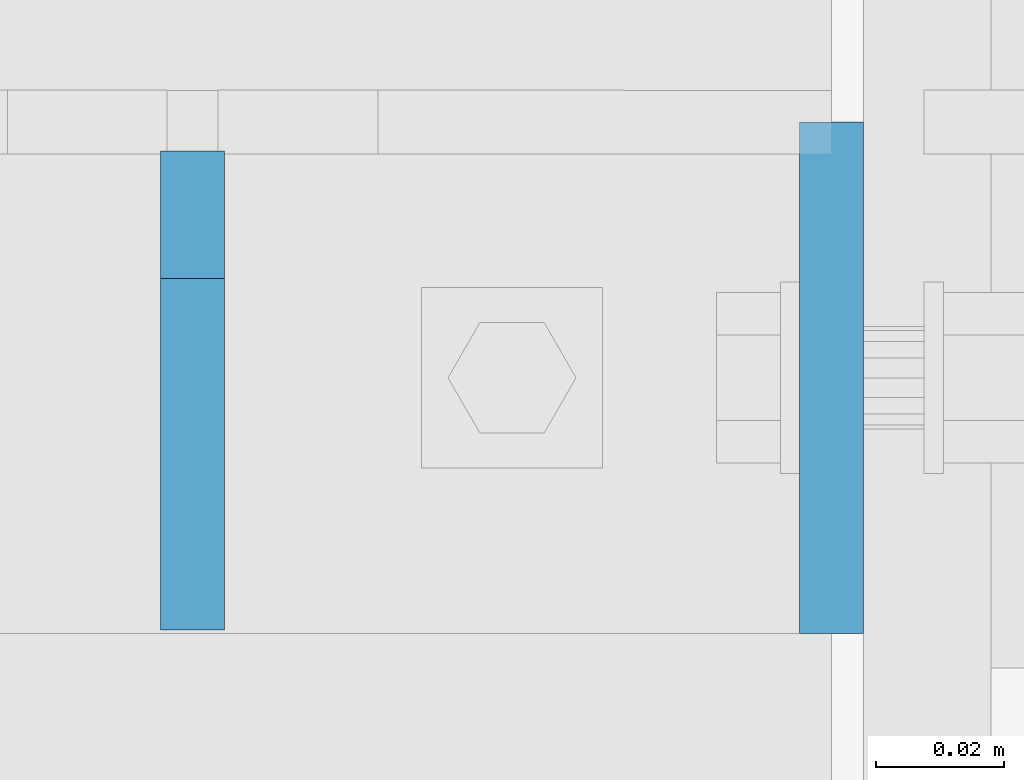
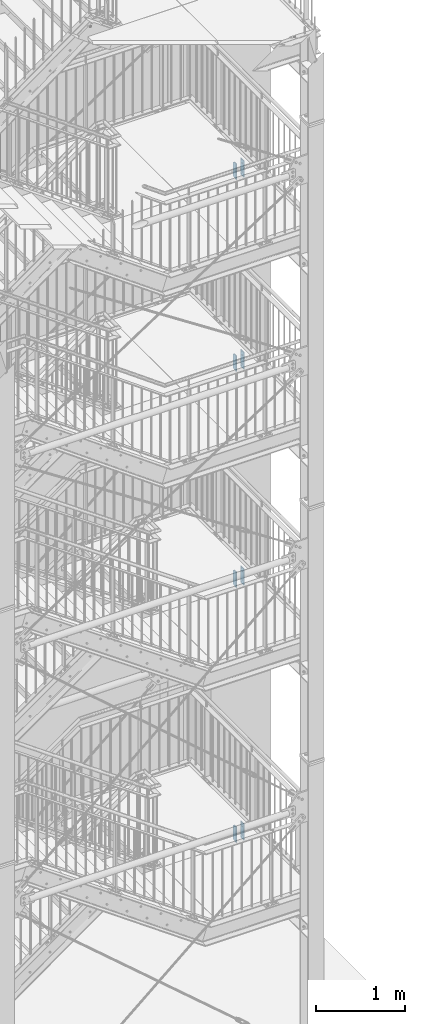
# One storey, part 204 of 825: 8 plates, 24 openings.
"""IFC2X3 building model written with IfcOpenShell, lengths in millimetres."""

from ifc_helpers import new_model, entity, si_unit, converted_unit, frame, frame_2d, origin, origin_with_axes, origin_2d_with_axis, place, context, project, spatial, polyline, circle, outline, extrude, material, layer, layer_set, element, save


model = new_model("IFC2X3")

# Units and contexts
model_context = context("Model", 3, precision=1e-09, world=origin_with_axes())
ifc_project = project(units=[si_unit("LENGTHUNIT", "METRE", prefix="MILLI"), si_unit("AREAUNIT", "SQUARE_METRE"), si_unit("VOLUMEUNIT", "CUBIC_METRE"), converted_unit("PLANEANGLEUNIT", "DEGREE", entity("IfcPlaneAngleMeasure", 0.01745329), si_unit("PLANEANGLEUNIT", "RADIAN"), dimensions=[0, 0, 0, 0, 0, 0, 0])], contexts=[model_context])

# Site, building, storey
site_placement = place(None, origin_with_axes())
site = spatial("IfcSite", under=ifc_project, at=site_placement, Name="Cnopf'sche Kinderklinik", CompositionType="ELEMENT")
building_placement = place(site_placement, origin_with_axes())
building = spatial("IfcBuilding", under=site, at=building_placement, Name="Struktur 1", CompositionType="ELEMENT")
storey_placement = place(building_placement, origin_with_axes())
storey = spatial("IfcBuildingStorey", under=building, at=storey_placement, Name="Default Storey", CompositionType="ELEMENT", Elevation=0.0)

# Plate, openings
ifc_material = material(Name="S235JR")
ifc_layer = layer(ifc_material, 10.0)
ifc_layer_set = layer_set([ifc_layer], Name="S235JR")
plate_1_placement = place(None, frame((8871.713402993, 6062.236971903, 2169.907896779), z_axis=(-1.0, 0.0, 0.0), x_axis=(0.0, 0.996815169, -0.079746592)))
plate_1 = element("IfcPlate", 1, at=plate_1_placement, inside=storey, material=ifc_layer_set, Name="Stiffener#1", ObjectType="Stiffener#1", context=model_context, shape_type="SweptSolid", body=[
    extrude(outline(polyline([(0.0, 0.0), (75.239625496, 0.0), (91.644322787, 205.05517107), (17.361672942, 217.017159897), (0.0, 0.0)])), origin_with_axes(), (0.0, 0.0, 1.0), 10.0),
])
opening_1_placement = place(plate_1_placement, frame((0.0, 0.0, -0.01), z_axis=(0.0, 0.0, 1.0), x_axis=(1.0, 0.0, 0.0)))
element("IfcOpeningElement", 2, at=opening_1_placement, cuts=plate_1, ObjectType="Opening", context=model_context, shape_type="SweptSolid", body=[
    extrude(outline(polyline([(91.644322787, 205.05517107), (71.898703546, 208.23487558), (90.049390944, 185.118867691), (91.644322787, 205.05517107)])), origin(), (0.0, 0.0, 1.0), 10.02),
])
opening_2_placement = place(plate_1_placement, frame((0.0, 0.0, -0.01), z_axis=(0.0, 0.0, 1.0), x_axis=(1.0, 0.0, 0.0)))
element("IfcOpeningElement", 3, at=opening_2_placement, cuts=plate_1, ObjectType="Opening", context=model_context, shape_type="SweptSolid", body=[
    extrude(outline(polyline([(75.239625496, 0.0), (76.83455734, 19.936303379), (55.239625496, 0.0), (75.239625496, 0.0)])), origin(), (0.0, 0.0, 1.0), 10.02),
])

plate_2_placement = place(None, frame((8971.713402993, 6141.736971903, 2176.0526312), z_axis=(-1.0, 0.0, 0.0), x_axis=(0.0, 0.0, -1.0)))
plate_2 = element("IfcPlate", 4, at=plate_2_placement, inside=storey, material=ifc_layer_set, Name="Endplate", ObjectType="Endplate", context=model_context, shape_type="SweptSolid", body=[
    extrude(outline(polyline([(0.0, 0.0), (230.0, 0.0), (230.0, 80.0), (0.0, 80.0), (0.0, 0.0)])), origin_with_axes(), (0.0, 0.0, 1.0), 10.0),
])
opening_3_placement = place(plate_2_placement, frame((209.0, 17.5, -0.5), z_axis=(0.0, 0.0, 1.0), x_axis=(1.0, 0.0, 0.0)))
element("IfcOpeningElement", 5, at=opening_3_placement, cuts=plate_2, ObjectType="Opening", context=model_context, shape_type="SweptSolid", body=[
    extrude(circle(Radius=6.001, at=origin_2d_with_axis()), origin(), (0.0, 0.0, 1.0), 11.0),
])
opening_4_placement = place(plate_2_placement, frame((21.0, 17.5, -0.5), z_axis=(0.0, 0.0, 1.0), x_axis=(1.0, 0.0, 0.0)))
element("IfcOpeningElement", 6, at=opening_4_placement, cuts=plate_2, ObjectType="Opening", context=model_context, shape_type="SweptSolid", body=[
    extrude(circle(Radius=6.001, at=origin_2d_with_axis()), origin(), (0.0, 0.0, 1.0), 11.0),
])
opening_5_placement = place(plate_2_placement, frame((64.001, 40.0, -0.5), z_axis=(0.0, 0.0, -1.0), x_axis=(-1.0, 0.0, 0.0)))
element("IfcOpeningElement", 7, at=opening_5_placement, cuts=plate_2, ObjectType="Opening", context=model_context, shape_type="SweptSolid", body=[
    extrude(circle(Radius=9.001, at=frame_2d((9.001, 0.0), x_axis=(1.0, 0.0))), origin(), (0.0, 0.0, -1.0), 11.0),
])
opening_6_placement = place(plate_2_placement, frame((184.001, 40.0, -0.5), z_axis=(0.0, 0.0, -1.0), x_axis=(-1.0, 0.0, 0.0)))
element("IfcOpeningElement", 8, at=opening_6_placement, cuts=plate_2, ObjectType="Opening", context=model_context, shape_type="SweptSolid", body=[
    extrude(circle(Radius=9.001, at=frame_2d((9.001, 0.0), x_axis=(1.0, 0.0))), origin(), (0.0, 0.0, -1.0), 11.0),
])

plate_3_placement = place(None, frame((8971.713402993, 6141.736971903, 5669.8947367), z_axis=(-1.0, 0.0, 0.0), x_axis=(0.0, 0.0, -1.0)))
plate_3 = element("IfcPlate", 9, at=plate_3_placement, inside=storey, material=ifc_layer_set, Name="Endplate", ObjectType="Endplate", context=model_context, shape_type="SweptSolid", body=[
    extrude(outline(polyline([(0.0, 0.0), (230.0, 0.0), (230.0, 80.0), (0.0, 80.0), (0.0, 0.0)])), origin_with_axes(), (0.0, 0.0, 1.0), 10.0),
])
opening_7_placement = place(plate_3_placement, frame((209.0, 17.5, -0.5), z_axis=(0.0, 0.0, 1.0), x_axis=(1.0, 0.0, 0.0)))
element("IfcOpeningElement", 10, at=opening_7_placement, cuts=plate_3, ObjectType="Opening", context=model_context, shape_type="SweptSolid", body=[
    extrude(circle(Radius=6.001, at=origin_2d_with_axis()), origin(), (0.0, 0.0, 1.0), 11.0),
])
opening_8_placement = place(plate_3_placement, frame((21.0, 17.5, -0.5), z_axis=(0.0, 0.0, 1.0), x_axis=(1.0, 0.0, 0.0)))
element("IfcOpeningElement", 11, at=opening_8_placement, cuts=plate_3, ObjectType="Opening", context=model_context, shape_type="SweptSolid", body=[
    extrude(circle(Radius=6.001, at=origin_2d_with_axis()), origin(), (0.0, 0.0, 1.0), 11.0),
])
opening_9_placement = place(plate_3_placement, frame((64.001, 40.0, -0.5), z_axis=(0.0, 0.0, -1.0), x_axis=(-1.0, 0.0, 0.0)))
element("IfcOpeningElement", 12, at=opening_9_placement, cuts=plate_3, ObjectType="Opening", context=model_context, shape_type="SweptSolid", body=[
    extrude(circle(Radius=9.001, at=frame_2d((9.001, 0.0), x_axis=(1.0, 0.0))), origin(), (0.0, 0.0, -1.0), 11.0),
])
opening_10_placement = place(plate_3_placement, frame((184.001, 40.0, -0.5), z_axis=(0.0, 0.0, -1.0), x_axis=(-1.0, 0.0, 0.0)))
element("IfcOpeningElement", 13, at=opening_10_placement, cuts=plate_3, ObjectType="Opening", context=model_context, shape_type="SweptSolid", body=[
    extrude(circle(Radius=9.001, at=frame_2d((9.001, 0.0), x_axis=(1.0, 0.0))), origin(), (0.0, 0.0, -1.0), 11.0),
])

plate_4_placement = place(None, frame((8871.713402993, 6062.236971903, 5663.750002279), z_axis=(-1.0, 0.0, 0.0), x_axis=(0.0, 0.996815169, -0.079746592)))
plate_4 = element("IfcPlate", 14, at=plate_4_placement, inside=storey, material=ifc_layer_set, Name="Stiffener#1", ObjectType="Stiffener#1", context=model_context, shape_type="SweptSolid", body=[
    extrude(outline(polyline([(0.0, 0.0), (75.239625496, 0.0), (91.644322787, 205.05517107), (17.361672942, 217.017159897), (0.0, 0.0)])), origin_with_axes(), (0.0, 0.0, 1.0), 10.0),
])
opening_11_placement = place(plate_4_placement, frame((0.0, 0.0, -0.01), z_axis=(0.0, 0.0, 1.0), x_axis=(1.0, 0.0, 0.0)))
element("IfcOpeningElement", 15, at=opening_11_placement, cuts=plate_4, ObjectType="Opening", context=model_context, shape_type="SweptSolid", body=[
    extrude(outline(polyline([(91.644322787, 205.05517107), (71.898703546, 208.23487558), (90.049390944, 185.118867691), (91.644322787, 205.05517107)])), origin(), (0.0, 0.0, 1.0), 10.02),
])
opening_12_placement = place(plate_4_placement, frame((0.0, 0.0, -0.01), z_axis=(0.0, 0.0, 1.0), x_axis=(1.0, 0.0, 0.0)))
element("IfcOpeningElement", 16, at=opening_12_placement, cuts=plate_4, ObjectType="Opening", context=model_context, shape_type="SweptSolid", body=[
    extrude(outline(polyline([(75.239625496, 0.0), (76.83455734, 19.936303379), (55.239625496, 0.0), (75.239625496, 0.0)])), origin(), (0.0, 0.0, 1.0), 10.02),
])

plate_5_placement = place(None, frame((8971.713402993, 6141.736971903, 8631.0), z_axis=(-1.0, 0.0, 0.0), x_axis=(0.0, 0.0, -1.0)))
plate_5 = element("IfcPlate", 17, at=plate_5_placement, inside=storey, material=ifc_layer_set, Name="Endplate", ObjectType="Endplate", context=model_context, shape_type="SweptSolid", body=[
    extrude(outline(polyline([(0.0, 0.0), (230.0, 0.0), (230.0, 80.0), (0.0, 80.0), (0.0, 0.0)])), origin_with_axes(), (0.0, 0.0, 1.0), 10.0),
])
opening_13_placement = place(plate_5_placement, frame((209.0, 17.5, -0.5), z_axis=(0.0, 0.0, 1.0), x_axis=(1.0, 0.0, 0.0)))
element("IfcOpeningElement", 18, at=opening_13_placement, cuts=plate_5, ObjectType="Opening", context=model_context, shape_type="SweptSolid", body=[
    extrude(circle(Radius=6.001, at=origin_2d_with_axis()), origin(), (0.0, 0.0, 1.0), 11.0),
])
opening_14_placement = place(plate_5_placement, frame((21.0, 17.5, -0.5), z_axis=(0.0, 0.0, 1.0), x_axis=(1.0, 0.0, 0.0)))
element("IfcOpeningElement", 19, at=opening_14_placement, cuts=plate_5, ObjectType="Opening", context=model_context, shape_type="SweptSolid", body=[
    extrude(circle(Radius=6.001, at=origin_2d_with_axis()), origin(), (0.0, 0.0, 1.0), 11.0),
])
opening_15_placement = place(plate_5_placement, frame((64.001, 40.0, -0.5), z_axis=(0.0, 0.0, -1.0), x_axis=(-1.0, 0.0, 0.0)))
element("IfcOpeningElement", 20, at=opening_15_placement, cuts=plate_5, ObjectType="Opening", context=model_context, shape_type="SweptSolid", body=[
    extrude(circle(Radius=9.001, at=frame_2d((9.001, 0.0), x_axis=(1.0, 0.0))), origin(), (0.0, 0.0, -1.0), 11.0),
])
opening_16_placement = place(plate_5_placement, frame((184.001, 40.0, -0.5), z_axis=(0.0, 0.0, -1.0), x_axis=(-1.0, 0.0, 0.0)))
element("IfcOpeningElement", 21, at=opening_16_placement, cuts=plate_5, ObjectType="Opening", context=model_context, shape_type="SweptSolid", body=[
    extrude(circle(Radius=9.001, at=frame_2d((9.001, 0.0), x_axis=(1.0, 0.0))), origin(), (0.0, 0.0, -1.0), 11.0),
])

plate_6_placement = place(None, frame((8871.713402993, 6062.236971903, 8624.855265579), z_axis=(-1.0, 0.0, 0.0), x_axis=(0.0, 0.996815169, -0.079746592)))
plate_6 = element("IfcPlate", 22, at=plate_6_placement, inside=storey, material=ifc_layer_set, Name="Stiffener#1", ObjectType="Stiffener#1", context=model_context, shape_type="SweptSolid", body=[
    extrude(outline(polyline([(0.0, 0.0), (75.239625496, 0.0), (91.644322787, 205.05517107), (17.361672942, 217.017159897), (0.0, 0.0)])), origin_with_axes(), (0.0, 0.0, 1.0), 10.0),
])
opening_17_placement = place(plate_6_placement, frame((0.0, 0.0, -0.01), z_axis=(0.0, 0.0, 1.0), x_axis=(1.0, 0.0, 0.0)))
element("IfcOpeningElement", 23, at=opening_17_placement, cuts=plate_6, ObjectType="Opening", context=model_context, shape_type="SweptSolid", body=[
    extrude(outline(polyline([(91.644322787, 205.05517107), (71.898703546, 208.23487558), (90.049390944, 185.118867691), (91.644322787, 205.05517107)])), origin(), (0.0, 0.0, 1.0), 10.02),
])
opening_18_placement = place(plate_6_placement, frame((0.0, 0.0, -0.01), z_axis=(0.0, 0.0, 1.0), x_axis=(1.0, 0.0, 0.0)))
element("IfcOpeningElement", 24, at=opening_18_placement, cuts=plate_6, ObjectType="Opening", context=model_context, shape_type="SweptSolid", body=[
    extrude(outline(polyline([(75.239625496, 0.0), (76.83455734, 19.936303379), (55.239625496, 0.0), (75.239625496, 0.0)])), origin(), (0.0, 0.0, 1.0), 10.02),
])

plate_7_placement = place(None, frame((8971.713402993, 6141.736971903, 11260.5000003), z_axis=(-1.0, 0.0, 0.0), x_axis=(0.0, 0.0, -1.0)))
plate_7 = element("IfcPlate", 25, at=plate_7_placement, inside=storey, material=ifc_layer_set, Name="Endplate", ObjectType="Endplate", context=model_context, shape_type="SweptSolid", body=[
    extrude(outline(polyline([(0.0, 0.0), (230.0, 0.0), (230.0, 80.0), (0.0, 80.0), (0.0, 0.0)])), origin_with_axes(), (0.0, 0.0, 1.0), 10.0),
])
opening_19_placement = place(plate_7_placement, frame((209.0, 17.5, -0.5), z_axis=(0.0, 0.0, 1.0), x_axis=(1.0, 0.0, 0.0)))
element("IfcOpeningElement", 26, at=opening_19_placement, cuts=plate_7, ObjectType="Opening", context=model_context, shape_type="SweptSolid", body=[
    extrude(circle(Radius=6.001, at=origin_2d_with_axis()), origin(), (0.0, 0.0, 1.0), 11.0),
])
opening_20_placement = place(plate_7_placement, frame((21.0, 17.5, -0.5), z_axis=(0.0, 0.0, 1.0), x_axis=(1.0, 0.0, 0.0)))
element("IfcOpeningElement", 27, at=opening_20_placement, cuts=plate_7, ObjectType="Opening", context=model_context, shape_type="SweptSolid", body=[
    extrude(circle(Radius=6.001, at=origin_2d_with_axis()), origin(), (0.0, 0.0, 1.0), 11.0),
])
opening_21_placement = place(plate_7_placement, frame((64.001, 40.0, -0.5), z_axis=(0.0, 0.0, -1.0), x_axis=(-1.0, 0.0, 0.0)))
element("IfcOpeningElement", 28, at=opening_21_placement, cuts=plate_7, ObjectType="Opening", context=model_context, shape_type="SweptSolid", body=[
    extrude(circle(Radius=9.001, at=frame_2d((9.001, 0.0), x_axis=(1.0, 0.0))), origin(), (0.0, 0.0, -1.0), 11.0),
])
opening_22_placement = place(plate_7_placement, frame((184.001, 40.0, -0.5), z_axis=(0.0, 0.0, -1.0), x_axis=(-1.0, 0.0, 0.0)))
element("IfcOpeningElement", 29, at=opening_22_placement, cuts=plate_7, ObjectType="Opening", context=model_context, shape_type="SweptSolid", body=[
    extrude(circle(Radius=9.001, at=frame_2d((9.001, 0.0), x_axis=(1.0, 0.0))), origin(), (0.0, 0.0, -1.0), 11.0),
])

plate_8_placement = place(None, frame((8871.713402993, 6062.236971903, 11254.355265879), z_axis=(-1.0, 0.0, 0.0), x_axis=(0.0, 0.996815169, -0.079746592)))
plate_8 = element("IfcPlate", 30, at=plate_8_placement, inside=storey, material=ifc_layer_set, Name="Stiffener#1", ObjectType="Stiffener#1", context=model_context, shape_type="SweptSolid", body=[
    extrude(outline(polyline([(0.0, 0.0), (75.239625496, 0.0), (91.644322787, 205.05517107), (17.361672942, 217.017159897), (0.0, 0.0)])), origin_with_axes(), (0.0, 0.0, 1.0), 10.0),
])
opening_23_placement = place(plate_8_placement, frame((0.0, 0.0, -0.01), z_axis=(0.0, 0.0, 1.0), x_axis=(1.0, 0.0, 0.0)))
element("IfcOpeningElement", 31, at=opening_23_placement, cuts=plate_8, ObjectType="Opening", context=model_context, shape_type="SweptSolid", body=[
    extrude(outline(polyline([(91.644322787, 205.05517107), (71.898703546, 208.23487558), (90.049390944, 185.118867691), (91.644322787, 205.05517107)])), origin(), (0.0, 0.0, 1.0), 10.02),
])
opening_24_placement = place(plate_8_placement, frame((0.0, 0.0, -0.01), z_axis=(0.0, 0.0, 1.0), x_axis=(1.0, 0.0, 0.0)))
element("IfcOpeningElement", 32, at=opening_24_placement, cuts=plate_8, ObjectType="Opening", context=model_context, shape_type="SweptSolid", body=[
    extrude(outline(polyline([(75.239625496, 0.0), (76.83455734, 19.936303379), (55.239625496, 0.0), (75.239625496, 0.0)])), origin(), (0.0, 0.0, 1.0), 10.02),
])

save(model, "model.ifc")
